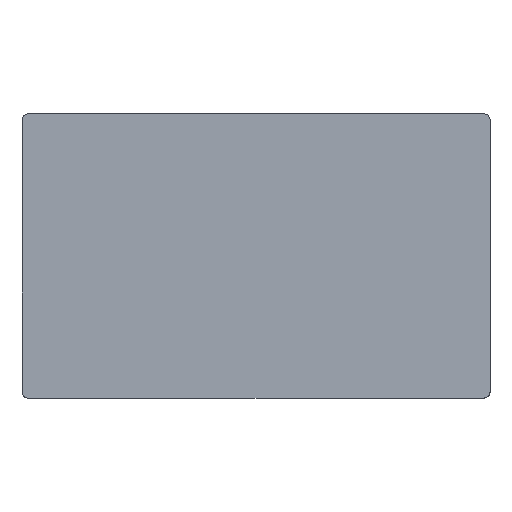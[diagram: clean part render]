
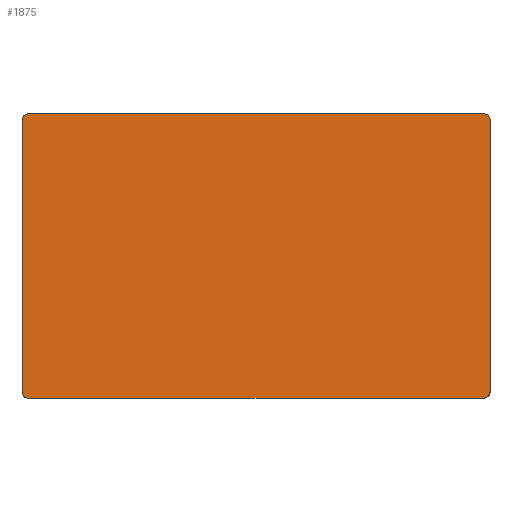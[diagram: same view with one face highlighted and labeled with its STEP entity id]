
A CAD part, top view. The second image highlights one B-rep face of the part: STEP entity #1875.
In plain terms, the highlighted planar face has unit normal (0, 0, 1).
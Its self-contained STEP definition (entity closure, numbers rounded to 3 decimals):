
#888=(
BOUNDED_CURVE()
B_SPLINE_CURVE(2,(#29993,#29994,#29995),.UNSPECIFIED.,.F.,.F.)
B_SPLINE_CURVE_WITH_KNOTS((3,3),(-28.117,0.),.UNSPECIFIED.)
CURVE()
GEOMETRIC_REPRESENTATION_ITEM()
RATIONAL_B_SPLINE_CURVE((1.,0.707,1.))
REPRESENTATION_ITEM('')
);
#890=(
BOUNDED_CURVE()
B_SPLINE_CURVE(2,(#30007,#30008,#30009),.UNSPECIFIED.,.F.,.F.)
B_SPLINE_CURVE_WITH_KNOTS((3,3),(-28.117,0.),.UNSPECIFIED.)
CURVE()
GEOMETRIC_REPRESENTATION_ITEM()
RATIONAL_B_SPLINE_CURVE((1.,0.707,1.))
REPRESENTATION_ITEM('')
);
#892=(
BOUNDED_CURVE()
B_SPLINE_CURVE(2,(#30021,#30022,#30023),.UNSPECIFIED.,.F.,.F.)
B_SPLINE_CURVE_WITH_KNOTS((3,3),(-28.117,0.),.UNSPECIFIED.)
CURVE()
GEOMETRIC_REPRESENTATION_ITEM()
RATIONAL_B_SPLINE_CURVE((1.,0.707,1.))
REPRESENTATION_ITEM('')
);
#894=(
BOUNDED_CURVE()
B_SPLINE_CURVE(2,(#30035,#30036,#30037),.UNSPECIFIED.,.F.,.F.)
B_SPLINE_CURVE_WITH_KNOTS((3,3),(-28.117,0.),.UNSPECIFIED.)
CURVE()
GEOMETRIC_REPRESENTATION_ITEM()
RATIONAL_B_SPLINE_CURVE((1.,0.707,1.))
REPRESENTATION_ITEM('')
);
#1875=ADVANCED_FACE('',(#2489),#9785,.T.);
#2489=FACE_OUTER_BOUND('',#3211,.T.);
#3211=EDGE_LOOP('',(#5837,#5838,#5839,#5840,#5841,#5842,#5843,#5844));
#5837=ORIENTED_EDGE('',*,*,#7665,.T.);
#5838=ORIENTED_EDGE('',*,*,#7662,.T.);
#5839=ORIENTED_EDGE('',*,*,#7659,.T.);
#5840=ORIENTED_EDGE('',*,*,#7656,.T.);
#5841=ORIENTED_EDGE('',*,*,#7653,.T.);
#5842=ORIENTED_EDGE('',*,*,#7674,.T.);
#5843=ORIENTED_EDGE('',*,*,#7671,.T.);
#5844=ORIENTED_EDGE('',*,*,#7668,.T.);
#7653=EDGE_CURVE('',#9524,#9523,#8469,.T.);
#7656=EDGE_CURVE('',#9526,#9524,#888,.T.);
#7659=EDGE_CURVE('',#9528,#9526,#8473,.T.);
#7662=EDGE_CURVE('',#9530,#9528,#890,.T.);
#7665=EDGE_CURVE('',#9532,#9530,#8477,.T.);
#7668=EDGE_CURVE('',#9534,#9532,#892,.T.);
#7671=EDGE_CURVE('',#9536,#9534,#8481,.T.);
#7674=EDGE_CURVE('',#9523,#9536,#894,.T.);
#8469=B_SPLINE_CURVE_WITH_KNOTS('',1,(#29986,#29987),.UNSPECIFIED.,.F.,
 .F.,(2,2),(-20.355,61.065),.UNSPECIFIED.);
#8473=B_SPLINE_CURVE_WITH_KNOTS('',1,(#30000,#30001),.UNSPECIFIED.,.F.,
 .F.,(2,2),(-34.105,102.315),.UNSPECIFIED.);
#8477=B_SPLINE_CURVE_WITH_KNOTS('',1,(#30014,#30015),.UNSPECIFIED.,.F.,
 .F.,(2,2),(-20.355,61.065),.UNSPECIFIED.);
#8481=B_SPLINE_CURVE_WITH_KNOTS('',1,(#30028,#30029),.UNSPECIFIED.,.F.,
 .F.,(2,2),(-34.105,102.315),.UNSPECIFIED.);
#9523=VERTEX_POINT('',#28632);
#9524=VERTEX_POINT('',#28633);
#9526=VERTEX_POINT('',#28635);
#9528=VERTEX_POINT('',#28637);
#9530=VERTEX_POINT('',#28639);
#9532=VERTEX_POINT('',#28641);
#9534=VERTEX_POINT('',#28643);
#9536=VERTEX_POINT('',#28645);
#9785=PLANE('',#10055);
#10055=AXIS2_PLACEMENT_3D('',#27708,#10309,$);
#10309=DIRECTION('',(0.,0.,1.));
#27708=CARTESIAN_POINT('',(-9.1,-464.46,18.498));
#28632=CARTESIAN_POINT('',(1390.91,367.65,18.498));
#28633=CARTESIAN_POINT('',(1390.91,-446.55,18.498));
#28635=CARTESIAN_POINT('',(1373.01,-464.45,18.498));
#28637=CARTESIAN_POINT('',(8.81,-464.45,18.498));
#28639=CARTESIAN_POINT('',(-9.09,-446.55,18.498));
#28641=CARTESIAN_POINT('',(-9.09,367.65,18.498));
#28643=CARTESIAN_POINT('',(8.81,385.55,18.498));
#28645=CARTESIAN_POINT('',(1373.01,385.55,18.498));
#29986=CARTESIAN_POINT('',(1390.91,-446.55,18.498));
#29987=CARTESIAN_POINT('',(1390.91,367.65,18.498));
#29993=CARTESIAN_POINT('',(1373.01,-464.45,18.498));
#29994=CARTESIAN_POINT('',(1390.91,-464.45,18.498));
#29995=CARTESIAN_POINT('',(1390.91,-446.55,18.498));
#30000=CARTESIAN_POINT('',(8.81,-464.45,18.498));
#30001=CARTESIAN_POINT('',(1373.01,-464.45,18.498));
#30007=CARTESIAN_POINT('',(-9.09,-446.55,18.498));
#30008=CARTESIAN_POINT('',(-9.09,-464.45,18.498));
#30009=CARTESIAN_POINT('',(8.81,-464.45,18.498));
#30014=CARTESIAN_POINT('',(-9.09,367.65,18.498));
#30015=CARTESIAN_POINT('',(-9.09,-446.55,18.498));
#30021=CARTESIAN_POINT('',(8.81,385.55,18.498));
#30022=CARTESIAN_POINT('',(-9.09,385.55,18.498));
#30023=CARTESIAN_POINT('',(-9.09,367.65,18.498));
#30028=CARTESIAN_POINT('',(1373.01,385.55,18.498));
#30029=CARTESIAN_POINT('',(8.81,385.55,18.498));
#30035=CARTESIAN_POINT('',(1390.91,367.65,18.498));
#30036=CARTESIAN_POINT('',(1390.91,385.55,18.498));
#30037=CARTESIAN_POINT('',(1373.01,385.55,18.498));
